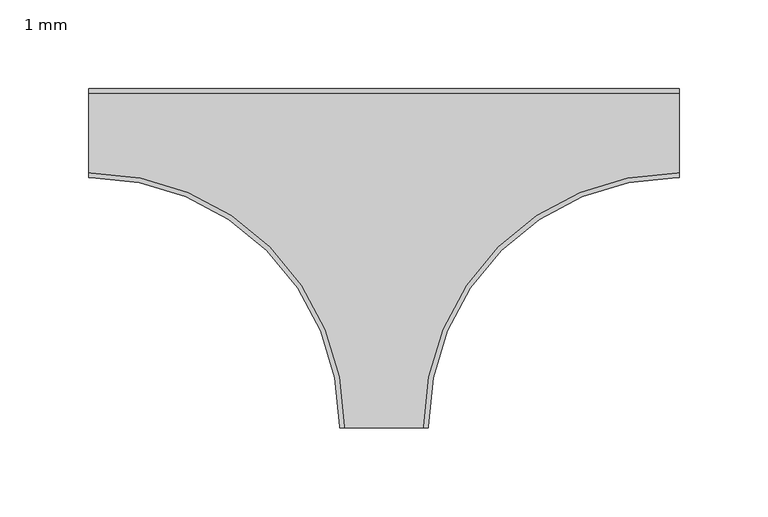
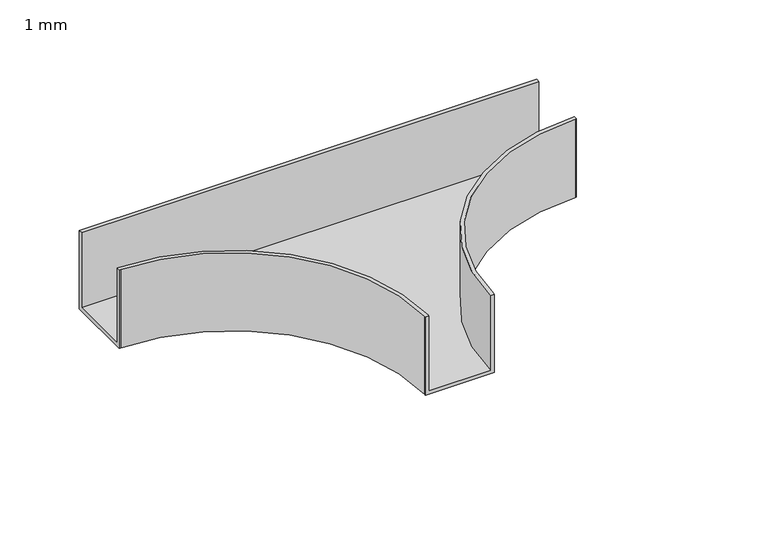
"""IFC4 building model written with IfcOpenShell, lengths in millimetres: cable carrier fitting geometry, BAKS_Trójnik_koryta E90 (R140) : 1 mm."""

from ifc_helpers import new_model, si_unit, frame, origin, place, context, project, spatial, polyline, circle_curve, source, transform, mapped, element, save
from ifc_brep_helpers import plane_surface, cylinder_surface, revolved_surface, advanced_brep


def cable_carrier_fitting_1_mm_346cbc13(model_context):
    return source(origin(), model_context, "Body", "AdvancedBrep", [
        advanced_brep(
        [(-25.0, -165.0, 30.0), (-25.0, -166.0, 30.0), (-22.46, -166.0, 30.0), (-22.46, -165.0, 30.0), (-165.0, -22.46, 30.0), (-166.0, -22.46, 30.0), (-166.0, -25.0, 30.0), (-165.0, -25.0, 30.0), (25.0, -165.0, 30.0), (165.0, -25.0, 30.0), (166.0, -25.0, 30.0), (166.0, -22.46, 30.0), (165.0, -22.46, 30.0), (22.46, -165.0, 30.0), (22.46, -166.0, 30.0), (25.0, -166.0, 30.0), (166.0, 25.0, 30.0), (-166.0, 25.0, 30.0), (-166.0, 22.46, 30.0), (166.0, 22.46, 30.0), (-25.0, -165.0, -30.0), (-165.0, -25.0, -30.0), (-166.0, -25.0, -30.0), (-166.0, 25.0, -30.0), (166.0, 25.0, -30.0), (166.0, -25.0, -30.0), (165.0, -25.0, -30.0), (25.0, -165.0, -30.0), (25.0, -166.0, -30.0), (-25.0, -166.0, -30.0), (-25.0, -165.0, -27.46), (22.46, -166.0, -27.46), (-22.46, -166.0, -27.46), (-22.46, -165.0, -27.46), (-165.0, -22.46, -27.46), (-166.0, -22.46, -27.46), (-166.0, 22.46, -27.46), (-165.0, -25.0, -27.46), (25.0, -165.0, -27.46), (165.0, -25.0, -27.46), (166.0, 22.46, -27.46), (166.0, -22.46, -27.46), (165.0, -22.46, -27.46), (22.46, -165.0, -27.46)],
        [
            (0, 1),
            (1, 2),
            (2, 3),
            (3, 4, circle_curve(frame((-165.0, -165.0, 30.0), z_axis=(0.0, 0.0, 1.0), x_axis=(1.0, 0.0, 0.0)), 142.54)),
            (4, 5),
            (5, 6),
            (6, 7),
            (7, 0, circle_curve(frame((-165.0, -165.0, 30.0), z_axis=(0.0, 0.0, -1.0), x_axis=(1.0, 0.0, 0.0)), 140.0)),
            (8, 9, circle_curve(frame((165.0, -165.0, 30.0), z_axis=(0.0, 0.0, -1.0), x_axis=(1.0, 0.0, 0.0)), 140.0)),
            (9, 10),
            (10, 11),
            (11, 12),
            (12, 13, circle_curve(frame((165.0, -165.0, 30.0), z_axis=(0.0, 0.0, 1.0), x_axis=(1.0, 0.0, 0.0)), 142.54)),
            (13, 14),
            (14, 15),
            (15, 8),
            (16, 17),
            (17, 18),
            (18, 19),
            (19, 16),
            (20, 21, circle_curve(frame((-165.0, -165.0, -30.0), z_axis=(0.0, 0.0, 1.0), x_axis=(1.0, 0.0, 0.0)), 140.0)),
            (21, 22),
            (22, 23),
            (23, 24),
            (24, 25),
            (25, 26),
            (26, 27, circle_curve(frame((165.0, -165.0, -30.0), z_axis=(0.0, 0.0, 1.0), x_axis=(1.0, 0.0, 0.0)), 140.0)),
            (27, 28),
            (28, 29),
            (29, 20),
            (29, 1),
            (0, 30),
            (30, 20),
            (28, 15),
            (14, 31),
            (31, 32),
            (32, 2),
            (32, 33),
            (33, 3),
            (33, 34, circle_curve(frame((-165.0, -165.0, -27.46), z_axis=(0.0, 0.0, 1.0), x_axis=(1.0, 0.0, 0.0)), 142.54)),
            (34, 4),
            (34, 35),
            (35, 5),
            (35, 36),
            (36, 18),
            (17, 23),
            (22, 6),
            (21, 37),
            (37, 7),
            (8, 38),
            (38, 27),
            (26, 39),
            (39, 9),
            (25, 10),
            (24, 16),
            (19, 40),
            (40, 41),
            (41, 11),
            (41, 42),
            (42, 12),
            (42, 43, circle_curve(frame((165.0, -165.0, -27.46), z_axis=(0.0, 0.0, 1.0), x_axis=(1.0, 0.0, 0.0)), 142.54)),
            (43, 13),
            (43, 31),
            (36, 40),
        ],
        [
            plane_surface(frame((-25.0, -165.0, 30.0), z_axis=(0.0, 0.0, 1.0), x_axis=(0.0, -1.0, 0.0))),
            plane_surface(frame((-25.0, -165.0, -30.0), z_axis=(0.0, 0.0, -1.0), x_axis=(0.0, 1.0, 0.0))),
            plane_surface(frame((-25.0, -165.0, 30.0), z_axis=(-1.0, 0.0, 0.0), x_axis=(0.0, 0.0, -1.0))),
            plane_surface(frame((-25.0, -166.0, 30.0), z_axis=(0.0, -1.0, 0.0), x_axis=(0.0, 0.0, -1.0))),
            plane_surface(frame((-22.46, -166.0, 30.0), z_axis=(1.0, 0.0, 0.0), x_axis=(0.0, 0.0, -1.0))),
            cylinder_surface(frame((-165.0, -165.0, -30.0), z_axis=(0.0, 0.0, 1.0), x_axis=(1.0, 0.0, 0.0)), 142.54),
            plane_surface(frame((-165.0, -22.46, 30.0), z_axis=(0.0, 1.0, 0.0), x_axis=(0.0, 0.0, -1.0))),
            plane_surface(frame((-166.0, -22.46, 30.0), z_axis=(-1.0, 0.0, 0.0), x_axis=(0.0, 0.0, -1.0))),
            plane_surface(frame((-166.0, -25.0, 30.0), z_axis=(2.7071678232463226e-12, -1.0, 0.0), x_axis=(0.0, 0.0, -1.0))),
            revolved_surface(polyline([(-25.0, -165.0, -30.0), (-25.0, -165.0, 30.0)]), (-165.0, -165.0, -30.0), (0.0, 0.0, -1.0)),
            revolved_surface(polyline([(305.0, -165.0, -30.0), (305.0, -165.0, 30.0)]), (165.0, -165.0, 0.0), (0.0, 0.0, -1.0)),
            plane_surface(frame((165.0, -25.0, 30.0), z_axis=(-2.707167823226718e-12, -1.0, 0.0), x_axis=(0.0, 0.0, -1.0))),
            plane_surface(frame((166.0, -25.0, 30.0), z_axis=(1.0, 0.0, 0.0), x_axis=(0.0, 0.0, -1.0))),
            plane_surface(frame((166.0, -22.46, 30.0), z_axis=(0.0, 1.0, 0.0), x_axis=(0.0, 0.0, -1.0))),
            cylinder_surface(frame((165.0, -165.0, 0.0), z_axis=(0.0, 0.0, 1.0), x_axis=(1.0, 0.0, 0.0)), 142.54),
            plane_surface(frame((22.46, -165.0, 30.0), z_axis=(-1.0, 0.0, 0.0), x_axis=(0.0, 0.0, -1.0))),
            plane_surface(frame((25.0, -166.0, 30.0), z_axis=(1.0, 0.0, 0.0), x_axis=(0.0, 0.0, -1.0))),
            plane_surface(frame((166.0, 25.0, 30.0), z_axis=(0.0, 1.0, 0.0), x_axis=(0.0, 0.0, -1.0))),
            plane_surface(frame((-166.0, 22.46, 30.0), z_axis=(0.0, -1.0, 0.0), x_axis=(0.0, 0.0, -1.0))),
            plane_surface(frame((-25.0, -165.0, -27.46), z_axis=(0.0, 0.0, 1.0), x_axis=(0.0, -1.0, 0.0))),
        ],
        [
            (0, [[1, 2, 3, 4, 5, 6, 7, 8]]),
            (0, [[9, 10, 11, 12, 13, 14, 15, 16]]),
            (0, [[17, 18, 19, 20]]),
            (1, [[21, 22, 23, 24, 25, 26, 27, 28, 29, 30]]),
            (2, [[31, -1, 32, 33, -30]]),
            (3, [[-2, -31, -29, 34, -15, 35, 36, 37]]),
            (4, [[-3, -37, 38, 39]]),
            (5, [[-4, -39, 40, 41]]),
            (6, [[-5, -41, 42, 43]]),
            (7, [[-6, -43, 44, 45, -18, 46, -23, 47]]),
            (8, [[-7, -47, -22, 48, 49]]),
            (9, [[-8, -49, -48, -21, -33, -32]]),
            (10, [[-9, 50, 51, -27, 52, 53]]),
            (11, [[54, -10, -53, -52, -26]]),
            (12, [[-11, -54, -25, 55, -20, 56, 57, 58]]),
            (13, [[-12, -58, 59, 60]]),
            (14, [[-13, -60, 61, 62]]),
            (15, [[-14, -62, 63, -35]]),
            (16, [[-16, -34, -28, -51, -50]]),
            (17, [[-46, -17, -55, -24]]),
            (18, [[-19, -45, 64, -56]]),
            (19, [[-36, -63, -61, -59, -57, -64, -44, -42, -40, -38]]),
        ],
    ),
    ])


if __name__ == "__main__":
    model = new_model("IFC4")
    model_context = context("Model", 3, world=origin())
    ifc_project = project(units=[si_unit("LENGTHUNIT", "METRE", prefix="MILLI")], contexts=[model_context])
    site = spatial("IfcSite", under=ifc_project)
    building = spatial("IfcBuilding", under=site)
    placement = place(None, origin())
    cable_carrier_fitting_1_mm_shape = cable_carrier_fitting_1_mm_346cbc13(model_context)
    element("IfcCableCarrierFitting", 1, ObjectType="BAKS_Trójnik_koryta E90 (R140) : 1 mm", at=placement, inside=building, context=model_context, shape_type="MappedRepresentation", body=[
        mapped(cable_carrier_fitting_1_mm_shape, transform((0.0, 0.0, 0.0), x_axis=(1.0, 0.0, 0.0), y_axis=(0.0, 1.0, 0.0), z_axis=(0.0, 0.0, 1.0))),
    ])
    save(model, "model.ifc")
